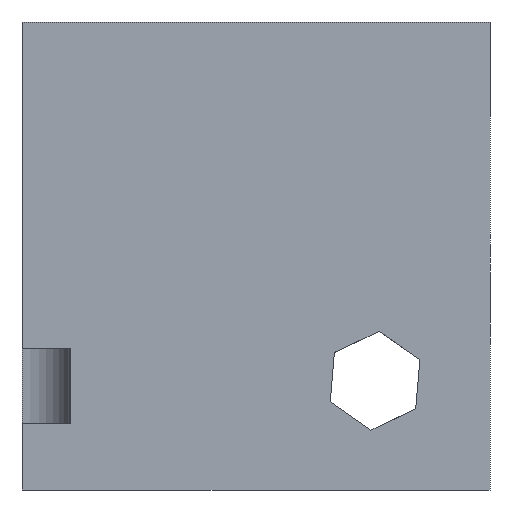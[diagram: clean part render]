
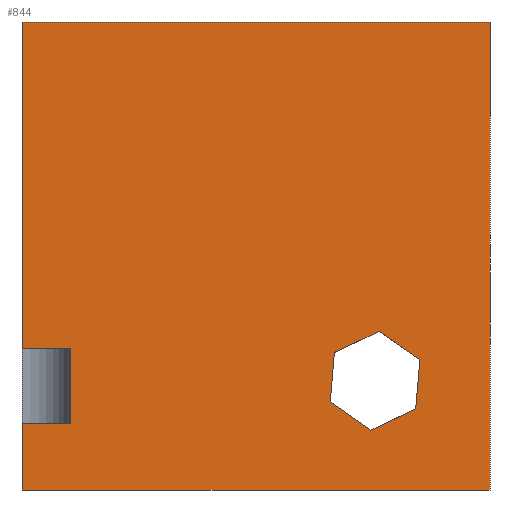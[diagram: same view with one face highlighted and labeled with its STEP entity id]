
A CAD part, left-side view. The second image highlights one B-rep face of the part: STEP entity #844.
In plain terms, the highlighted planar face has unit normal (-1, 0, 0).
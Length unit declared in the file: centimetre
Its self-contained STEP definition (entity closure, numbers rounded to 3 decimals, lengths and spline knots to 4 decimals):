
#5 = DIRECTION ( 'NONE',  ( 0., 0., -1. ) ) ;
#6 = EDGE_CURVE ( 'NONE', #218, #1323, #1238, .T. ) ;
#16 = DIRECTION ( 'NONE',  ( 0., -1., 0. ) ) ;
#29 = CARTESIAN_POINT ( 'NONE',  ( 0., 1000., 1000. ) ) ;
#38 = VECTOR ( 'NONE', #16, 100. ) ;
#45 = CARTESIAN_POINT ( 'NONE',  ( 0., 236.7529, 338.9163 ) ) ;
#46 = DIRECTION ( 'NONE',  ( 0., -0.821, -0.571 ) ) ;
#55 = DIRECTION ( 'NONE',  ( 0., 0.821, 0.571 ) ) ;
#68 = VECTOR ( 'NONE', #1089, 100. ) ;
#72 = ORIENTED_EDGE ( 'NONE', *, *, #686, .T. ) ;
#83 = CARTESIAN_POINT ( 'NONE',  ( 0., 341.293, 188.4366 ) ) ;
#115 = VECTOR ( 'NONE', #786, 100. ) ;
#162 = VECTOR ( 'NONE', #5, 100. ) ;
#167 = CARTESIAN_POINT ( 'NONE',  ( 0., 341.293, 188.4366 ) ) ;
#169 = ORIENTED_EDGE ( 'NONE', *, *, #647, .F. ) ;
#204 = EDGE_CURVE ( 'NONE', #958, #234, #510, .T. ) ;
#208 = EDGE_LOOP ( 'NONE', ( #312, #1119, #1385, #1698, #249, #1187, #1704, #169 ) ) ;
#209 = EDGE_CURVE ( 'NONE', #928, #597, #1058, .T. ) ;
#210 = VECTOR ( 'NONE', #608, 100. ) ;
#217 = CARTESIAN_POINT ( 'NONE',  ( 0., 897.3358, 302.6118 ) ) ;
#218 = VERTEX_POINT ( 'NONE', #386 ) ;
#234 = VERTEX_POINT ( 'NONE', #683 ) ;
#249 = ORIENTED_EDGE ( 'NONE', *, *, #1417, .F. ) ;
#271 = EDGE_CURVE ( 'NONE', #597, #621, #1513, .T. ) ;
#276 = CARTESIAN_POINT ( 'NONE',  ( 0., 897.3358, 142.1691 ) ) ;
#290 = LINE ( 'NONE', #1407, #38 ) ;
#302 = DIRECTION ( 'NONE',  ( 1., 0., 0. ) ) ;
#308 = VECTOR ( 'NONE', #945, 100. ) ;
#312 = ORIENTED_EDGE ( 'NONE', *, *, #6, .F. ) ;
#330 = LINE ( 'NONE', #796, #1294 ) ;
#336 = VERTEX_POINT ( 'NONE', #788 ) ;
#355 = DIRECTION ( 'NONE',  ( 0., 1., 0. ) ) ;
#367 = CARTESIAN_POINT ( 'NONE',  ( 0., 332.4627, 293.8546 ) ) ;
#374 = LINE ( 'NONE', #217, #1299 ) ;
#386 = CARTESIAN_POINT ( 'NONE',  ( 0., 897.3358, 142.1691 ) ) ;
#417 = CARTESIAN_POINT ( 'NONE',  ( 0., 1000., 1000. ) ) ;
#455 = DIRECTION ( 'NONE',  ( 0., 0., -1. ) ) ;
#469 = LINE ( 'NONE', #1253, #210 ) ;
#473 = VECTOR ( 'NONE', #1228, 100. ) ;
#489 = LINE ( 'NONE', #1735, #850 ) ;
#501 = ORIENTED_EDGE ( 'NONE', *, *, #271, .T. ) ;
#510 = LINE ( 'NONE', #1635, #308 ) ;
#557 = CARTESIAN_POINT ( 'NONE',  ( 0., 1000., 1000. ) ) ;
#597 = VERTEX_POINT ( 'NONE', #1699 ) ;
#608 = DIRECTION ( 'NONE',  ( 0., 0., -1. ) ) ;
#621 = VERTEX_POINT ( 'NONE', #45 ) ;
#622 = EDGE_CURVE ( 'NONE', #1271, #1137, #489, .T. ) ;
#639 = DIRECTION ( 'NONE',  ( 0., -1., 0. ) ) ;
#647 = EDGE_CURVE ( 'NONE', #1323, #336, #374, .T. ) ;
#649 = LINE ( 'NONE', #557, #1180 ) ;
#651 = CARTESIAN_POINT ( 'NONE',  ( 0., 149.8733, 278.56 ) ) ;
#653 = VERTEX_POINT ( 'NONE', #651 ) ;
#683 = CARTESIAN_POINT ( 'NONE',  ( 0., 0., 0. ) ) ;
#686 = EDGE_CURVE ( 'NONE', #653, #1223, #920, .T. ) ;
#717 = VECTOR ( 'NONE', #980, 100. ) ;
#724 = FACE_BOUND ( 'NONE', #1464, .T. ) ;
#740 = LINE ( 'NONE', #1274, #1409 ) ;
#786 = DIRECTION ( 'NONE',  ( 0., 0.083, -0.997 ) ) ;
#788 = CARTESIAN_POINT ( 'NONE',  ( 0., 1000., 302.6118 ) ) ;
#796 = CARTESIAN_POINT ( 'NONE',  ( 0., 254.4135, 128.0803 ) ) ;
#812 = CARTESIAN_POINT ( 'NONE',  ( 0., 158.7037, 173.142 ) ) ;
#844 = ADVANCED_FACE ( 'NONE', ( #724, #1428 ), #1152, .F. ) ;
#850 = VECTOR ( 'NONE', #639, 100. ) ;
#877 = EDGE_CURVE ( 'NONE', #621, #653, #740, .T. ) ;
#920 = LINE ( 'NONE', #1467, #115 ) ;
#928 = VERTEX_POINT ( 'NONE', #167 ) ;
#931 = DIRECTION ( 'NONE',  ( 0., -0.905, 0.426 ) ) ;
#945 = DIRECTION ( 'NONE',  ( 0., -1., 0. ) ) ;
#958 = VERTEX_POINT ( 'NONE', #1420 ) ;
#980 = DIRECTION ( 'NONE',  ( 0., 0., 1. ) ) ;
#998 = EDGE_CURVE ( 'NONE', #1188, #928, #330, .T. ) ;
#1058 = LINE ( 'NONE', #83, #68 ) ;
#1085 = VERTEX_POINT ( 'NONE', #1208 ) ;
#1089 = DIRECTION ( 'NONE',  ( 0., -0.083, 0.997 ) ) ;
#1092 = LINE ( 'NONE', #812, #473 ) ;
#1119 = ORIENTED_EDGE ( 'NONE', *, *, #1468, .F. ) ;
#1137 = VERTEX_POINT ( 'NONE', #1788 ) ;
#1150 = ORIENTED_EDGE ( 'NONE', *, *, #1695, .T. ) ;
#1152 = PLANE ( 'NONE',  #1166 ) ;
#1166 = AXIS2_PLACEMENT_3D ( 'NONE', #29, #302, #455 ) ;
#1180 = VECTOR ( 'NONE', #1621, 100. ) ;
#1187 = ORIENTED_EDGE ( 'NONE', *, *, #622, .F. ) ;
#1188 = VERTEX_POINT ( 'NONE', #1206 ) ;
#1203 = ORIENTED_EDGE ( 'NONE', *, *, #998, .T. ) ;
#1206 = CARTESIAN_POINT ( 'NONE',  ( 0., 254.4135, 128.0803 ) ) ;
#1208 = CARTESIAN_POINT ( 'NONE',  ( 0., 1000., 142.1691 ) ) ;
#1223 = VERTEX_POINT ( 'NONE', #1335 ) ;
#1224 = EDGE_CURVE ( 'NONE', #1085, #958, #649, .T. ) ;
#1228 = DIRECTION ( 'NONE',  ( 0., 0.905, -0.426 ) ) ;
#1238 = LINE ( 'NONE', #276, #717 ) ;
#1253 = CARTESIAN_POINT ( 'NONE',  ( 0., 0., 1000. ) ) ;
#1271 = VERTEX_POINT ( 'NONE', #417 ) ;
#1274 = CARTESIAN_POINT ( 'NONE',  ( 0., 236.7529, 338.9163 ) ) ;
#1294 = VECTOR ( 'NONE', #55, 100. ) ;
#1299 = VECTOR ( 'NONE', #355, 100. ) ;
#1323 = VERTEX_POINT ( 'NONE', #1657 ) ;
#1335 = CARTESIAN_POINT ( 'NONE',  ( 0., 158.7037, 173.142 ) ) ;
#1385 = ORIENTED_EDGE ( 'NONE', *, *, #1224, .T. ) ;
#1407 = CARTESIAN_POINT ( 'NONE',  ( 0., 897.3358, 142.1691 ) ) ;
#1409 = VECTOR ( 'NONE', #46, 100. ) ;
#1417 = EDGE_CURVE ( 'NONE', #1137, #234, #469, .T. ) ;
#1420 = CARTESIAN_POINT ( 'NONE',  ( 0., 1000., 0. ) ) ;
#1428 = FACE_OUTER_BOUND ( 'NONE', #208, .T. ) ;
#1464 = EDGE_LOOP ( 'NONE', ( #72, #1150, #1203, #1726, #501, #1648 ) ) ;
#1467 = CARTESIAN_POINT ( 'NONE',  ( 0., 149.8733, 278.56 ) ) ;
#1468 = EDGE_CURVE ( 'NONE', #1085, #218, #290, .T. ) ;
#1513 = LINE ( 'NONE', #367, #1702 ) ;
#1539 = CARTESIAN_POINT ( 'NONE',  ( 0., 1000., 1000. ) ) ;
#1621 = DIRECTION ( 'NONE',  ( 0., 0., -1. ) ) ;
#1635 = CARTESIAN_POINT ( 'NONE',  ( 0., 1000., 0. ) ) ;
#1642 = LINE ( 'NONE', #1539, #162 ) ;
#1648 = ORIENTED_EDGE ( 'NONE', *, *, #877, .T. ) ;
#1657 = CARTESIAN_POINT ( 'NONE',  ( 0., 897.3358, 302.6118 ) ) ;
#1695 = EDGE_CURVE ( 'NONE', #1223, #1188, #1092, .T. ) ;
#1698 = ORIENTED_EDGE ( 'NONE', *, *, #204, .T. ) ;
#1699 = CARTESIAN_POINT ( 'NONE',  ( 0., 332.4627, 293.8546 ) ) ;
#1702 = VECTOR ( 'NONE', #931, 100. ) ;
#1704 = ORIENTED_EDGE ( 'NONE', *, *, #1729, .T. ) ;
#1726 = ORIENTED_EDGE ( 'NONE', *, *, #209, .T. ) ;
#1729 = EDGE_CURVE ( 'NONE', #1271, #336, #1642, .T. ) ;
#1735 = CARTESIAN_POINT ( 'NONE',  ( 0., 1000., 1000. ) ) ;
#1788 = CARTESIAN_POINT ( 'NONE',  ( 0., 0., 1000. ) ) ;
